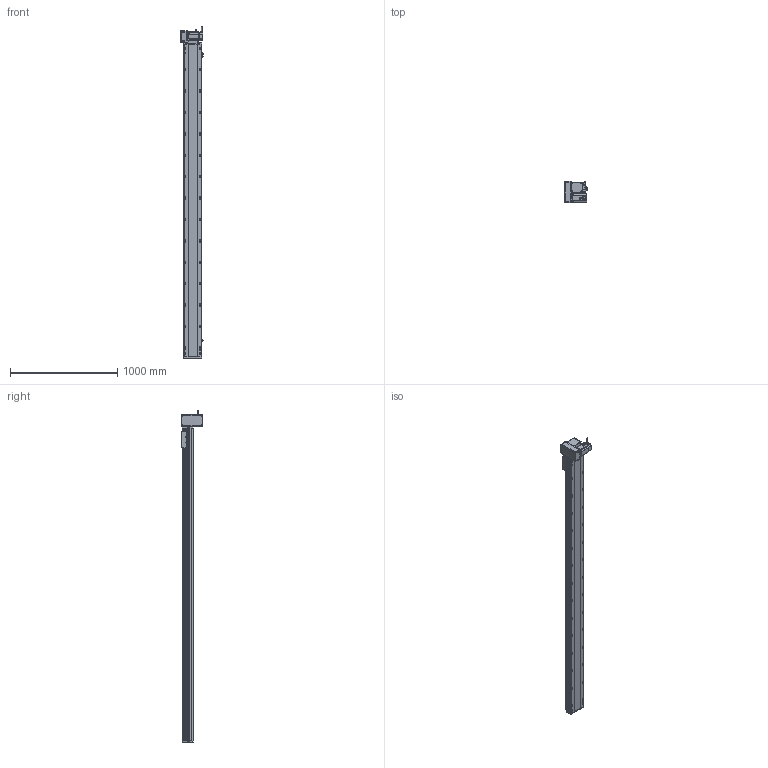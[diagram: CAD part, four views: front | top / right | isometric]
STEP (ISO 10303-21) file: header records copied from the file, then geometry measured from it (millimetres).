
FILE_DESCRIPTION (( 'STEP AP214' ), '1' );
FILE_NAME ('RTB17S-XX-2650-LM-M75-C4.STEP', '2025-12-12T00:47:44', ( '' ), ( '' ), 'SwSTEP 2.0', 'SolidWorks 2018', '' );
FILE_SCHEMA (( 'AUTOMOTIVE_DESIGN' ));
Length unit declared in the file: millimetre
Products named in the file (15): RTH13-BL-012覜茼え俋离^RTB17S-賑釱_RTB17S-XX-XX-LM-M75-C4; RTB17S-L-014-T20-P75--々湍釱^RTB17S-LM-々湍釱蚾饜-750W_RTB17S-XX-XX-LM-M75-C4; RTB17S-LM-々湍釱蚾饜-750W^RTB17S-XX-XX-LM-M75-C4; RTB22S-GY-008-M75--萇儂啣^RTB17S-LM-々湍釱蚾饜-750W_RTB17S-XX-XX-LM-M75-C4; RTB17S-L-001-耜醱啣^RTB17S-XX-XX-LM-M75-C4; RTB17S-賑釱^RTB17S-XX-XX-LM-M75-C4; RTB17-R-011菁釱^RTB17S-XX-XX-LM-M75-C4; 750W萇儂^RTB17S-XX-XX-LM-M75-C4; RTB22S-GY-005P^RTB17S-LM-々湍釱蚾饜-750W_RTB17S-XX-XX-LM-M75-C4; RTB17S-L-007奻裔^RTB17S-XX-XX-LM-M75-C4; RTB17S-L-004-賑釱^RTB17S-賑釱_RTB17S-XX-XX-LM-M75-C4; RTB22S-GY-017P^RTB17S-LM-々湍釱蚾饜-750W_RTB17S-XX-XX-LM-M75-C4; RTB17S-XX-2650-LM-M75-C4; EE672^RTB17S-XX-XX-LM-M75-C4; RTB22S-GY-018P^RTB17S-LM-々湍釱蚾饜-750W_RTB17S-XX-XX-LM-M75-C4
Assembly tree (17 placements, depth 3):
  RTB17S-XX-2650-LM-M75-C4
    RTB17-R-011菁釱^RTB17S-XX-XX-LM-M75-C4
    EE672^RTB17S-XX-XX-LM-M75-C4  x3
    RTB17S-L-001-耜醱啣^RTB17S-XX-XX-LM-M75-C4
    RTB17S-賑釱^RTB17S-XX-XX-LM-M75-C4
      RTB17S-L-004-賑釱^RTB17S-賑釱_RTB17S-XX-XX-LM-M75-C4
      RTH13-BL-012覜茼え俋离^RTB17S-賑釱_RTB17S-XX-XX-LM-M75-C4
    RTB17S-L-007奻裔^RTB17S-XX-XX-LM-M75-C4
    750W萇儂^RTB17S-XX-XX-LM-M75-C4
    RTB17S-LM-々湍釱蚾饜-750W^RTB17S-XX-XX-LM-M75-C4
      RTB17S-L-014-T20-P75--々湍釱^RTB17S-LM-々湍釱蚾饜-750W_RTB17S-XX-XX-LM-M75-C4
      RTB22S-GY-005P^RTB17S-LM-々湍釱蚾饜-750W_RTB17S-XX-XX-LM-M75-C4
      RTB22S-GY-017P^RTB17S-LM-々湍釱蚾饜-750W_RTB17S-XX-XX-LM-M75-C4  x2
      RTB22S-GY-008-M75--萇儂啣^RTB17S-LM-々湍釱蚾饜-750W_RTB17S-XX-XX-LM-M75-C4
      RTB22S-GY-018P^RTB17S-LM-々湍釱蚾饜-750W_RTB17S-XX-XX-LM-M75-C4
Bounding box: 210.4 x 200 x 3102.2 mm (x, y, z)
Volume: 22510308.9 mm3; surface area: 4099460.9 mm2
Topology: 17 solids, 17 shells, 2233 faces, 6268 edges, 4058 vertices
Faces by surface type: plane 988, cylinder 829, bspline 294, cone 110, sphere 8, torus 4
Entity records: 65014 total; most frequent: CARTESIAN_POINT 19332, ORIENTED_EDGE 9380, DIRECTION 8672, EDGE_CURVE 4690, AXIS2_PLACEMENT_3D 3078, VERTEX_POINT 3062, VECTOR 2516, LINE 2516
